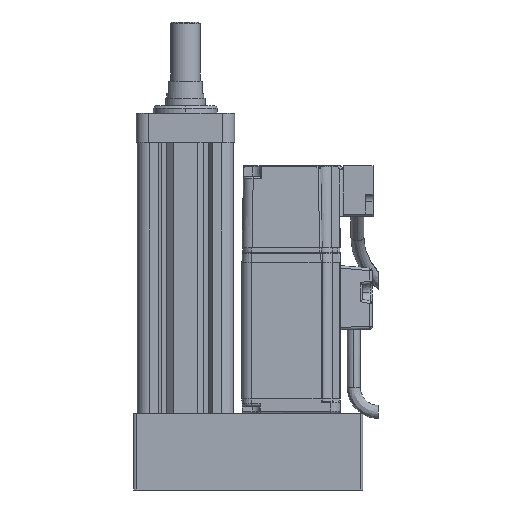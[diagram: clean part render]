
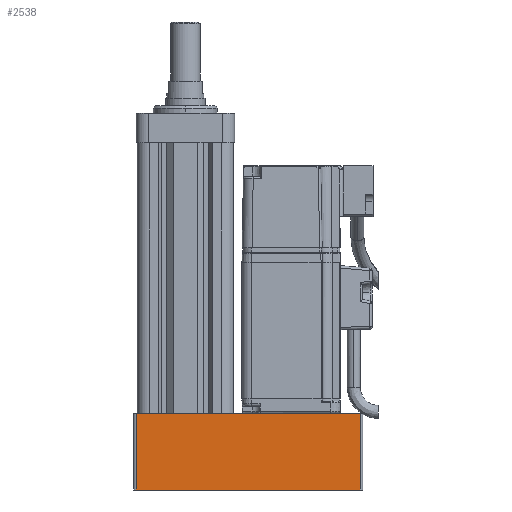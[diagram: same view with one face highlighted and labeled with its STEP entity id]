
A CAD part, left-side view. The second image highlights one B-rep face of the part: STEP entity #2538.
In plain terms, the highlighted planar face has unit normal (-1, 0, 0) as drawn and (0, 1, 0) by its records, which use the part's own axes.
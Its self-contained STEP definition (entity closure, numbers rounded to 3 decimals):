
#1331 = DIRECTION ( 'NONE',  ( -1., 0., 0. ) ) ;
#1663 = VECTOR ( 'NONE', #12218, 1000. ) ;
#2538 = ADVANCED_FACE ( 'NONE', ( #13144 ), #22399, .F. ) ;
#2554 = EDGE_CURVE ( 'NONE', #16707, #11401, #8060, .T. ) ;
#3712 = CARTESIAN_POINT ( 'NONE',  ( 45.5, 24., 0. ) ) ;
#4279 = CARTESIAN_POINT ( 'NONE',  ( 45.5, 24., 31. ) ) ;
#4400 = EDGE_CURVE ( 'NONE', #13754, #11401, #6782, .T. ) ;
#4513 = EDGE_CURVE ( 'NONE', #23480, #13754, #8857, .T. ) ;
#4768 = EDGE_LOOP ( 'NONE', ( #18715, #12826, #13459, #9907 ) ) ;
#6782 = LINE ( 'NONE', #8455, #1663 ) ;
#7047 = DIRECTION ( 'NONE',  ( 0., -1., 0. ) ) ;
#8060 = LINE ( 'NONE', #18614, #14958 ) ;
#8358 = DIRECTION ( 'NONE',  ( 0., 0., -1. ) ) ;
#8455 = CARTESIAN_POINT ( 'NONE',  ( -45.5, 24., 31. ) ) ;
#8606 = LINE ( 'NONE', #17506, #23354 ) ;
#8857 = LINE ( 'NONE', #18416, #9171 ) ;
#9047 = CARTESIAN_POINT ( 'NONE',  ( -46.5, 24., 31. ) ) ;
#9171 = VECTOR ( 'NONE', #20180, 1000. ) ;
#9907 = ORIENTED_EDGE ( 'NONE', *, *, #4400, .T. ) ;
#10372 = AXIS2_PLACEMENT_3D ( 'NONE', #9047, #7047, #22656 ) ;
#11401 = VERTEX_POINT ( 'NONE', #18156 ) ;
#12218 = DIRECTION ( 'NONE',  ( 0., 0., 1. ) ) ;
#12826 = ORIENTED_EDGE ( 'NONE', *, *, #23210, .T. ) ;
#13144 = FACE_OUTER_BOUND ( 'NONE', #4768, .T. ) ;
#13459 = ORIENTED_EDGE ( 'NONE', *, *, #4513, .T. ) ;
#13754 = VERTEX_POINT ( 'NONE', #16660 ) ;
#14958 = VECTOR ( 'NONE', #1331, 1000. ) ;
#16660 = CARTESIAN_POINT ( 'NONE',  ( -45.5, 24., 0. ) ) ;
#16707 = VERTEX_POINT ( 'NONE', #4279 ) ;
#17506 = CARTESIAN_POINT ( 'NONE',  ( 45.5, 24., 31. ) ) ;
#18156 = CARTESIAN_POINT ( 'NONE',  ( -45.5, 24., 31. ) ) ;
#18416 = CARTESIAN_POINT ( 'NONE',  ( -46.5, 24., 0. ) ) ;
#18614 = CARTESIAN_POINT ( 'NONE',  ( -46.5, 24., 31. ) ) ;
#18715 = ORIENTED_EDGE ( 'NONE', *, *, #2554, .F. ) ;
#20180 = DIRECTION ( 'NONE',  ( -1., 0., 0. ) ) ;
#22399 = PLANE ( 'NONE',  #10372 ) ;
#22656 = DIRECTION ( 'NONE',  ( 0., 0., -1. ) ) ;
#23210 = EDGE_CURVE ( 'NONE', #16707, #23480, #8606, .T. ) ;
#23354 = VECTOR ( 'NONE', #8358, 1000. ) ;
#23480 = VERTEX_POINT ( 'NONE', #3712 ) ;
